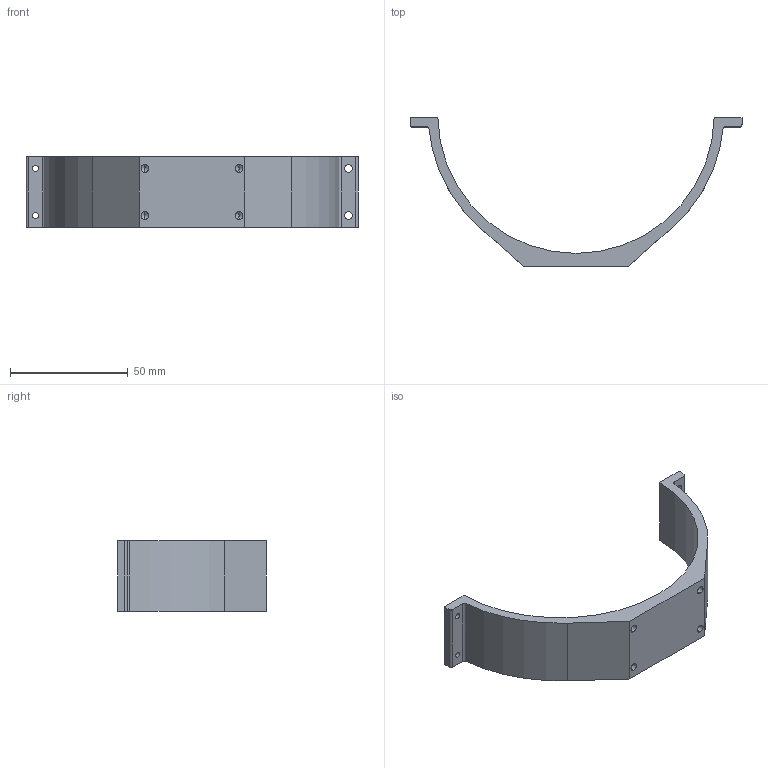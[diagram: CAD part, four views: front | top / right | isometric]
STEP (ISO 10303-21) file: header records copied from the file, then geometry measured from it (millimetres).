
FILE_DESCRIPTION (( 'STEP AP203' ), '1' );
FILE_NAME ('WTE4-M-CLAMP-R1.STEP', '2016-11-08T00:20:38', ( '' ), ( '' ), 'SwSTEP 2.0', 'SolidWorks 2014', '' );
FILE_SCHEMA (( 'CONFIG_CONTROL_DESIGN' ));
Length unit declared in the file: millimetre
Products named in the file (1): WTE4-M-CLAMP-R1
Bounding box: 141.08 x 63.24 x 30 mm (x, y, z)
Volume: 30404.9 mm3; surface area: 15097.8 mm2
Topology: 1 solids, 1 shells, 42 faces, 112 edges, 68 vertices
Faces by surface type: cylinder 23, plane 11, cone 8
Entity records: 1355 total; most frequent: DIRECTION 236, CARTESIAN_POINT 215, ORIENTED_EDGE 208, EDGE_CURVE 104, AXIS2_PLACEMENT_3D 89, VERTEX_POINT 68, VECTOR 58, LINE 58
